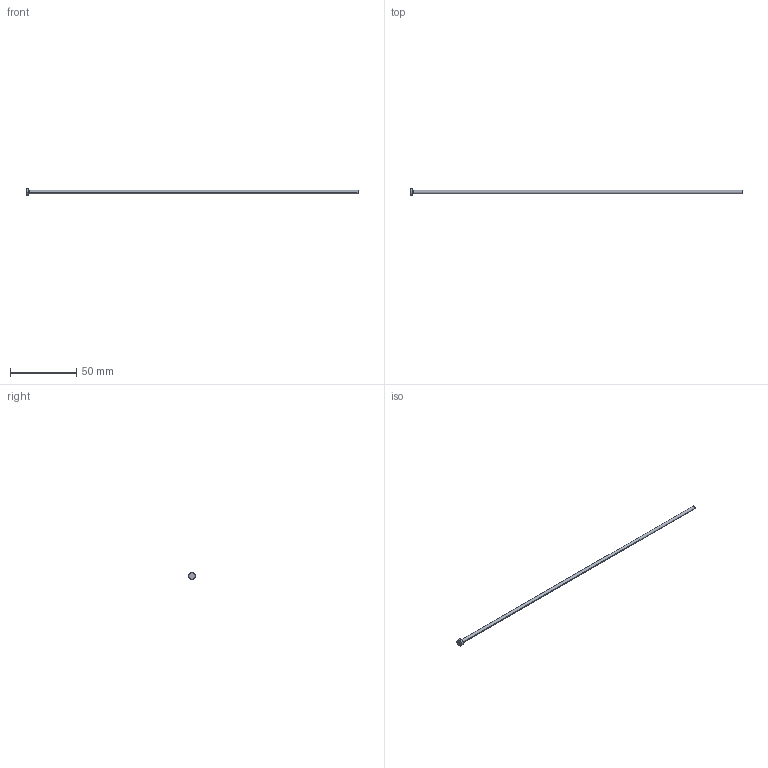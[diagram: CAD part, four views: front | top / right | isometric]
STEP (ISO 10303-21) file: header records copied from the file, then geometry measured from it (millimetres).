
FILE_DESCRIPTION (( 'STEP AP214' ), '1' );
FILE_NAME ('A-2,5x250.STEP', '2020-05-28T16:56:14', ( 'August' ), ( '' ), 'SwSTEP 2.0', 'SolidWorks 2018', '' );
FILE_SCHEMA (( 'AUTOMOTIVE_DESIGN' ));
Length unit declared in the file: millimetre
Products named in the file (1): A-2,5x250
Bounding box: 250 x 5 x 5 mm (x, y, z)
Volume: 1256.8 mm3; surface area: 2017.5 mm2
Topology: 1 solids, 1 shells, 9 faces, 16 edges, 10 vertices
Faces by surface type: cylinder 4, plane 3, torus 2
Entity records: 260 total; most frequent: DIRECTION 48, CARTESIAN_POINT 36, ORIENTED_EDGE 32, AXIS2_PLACEMENT_3D 22, EDGE_CURVE 16, CIRCLE 12, VERTEX_POINT 10, EDGE_LOOP 10
